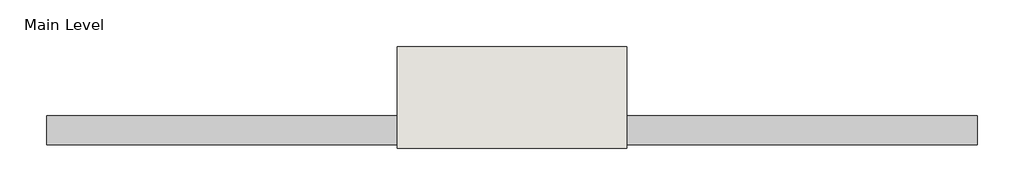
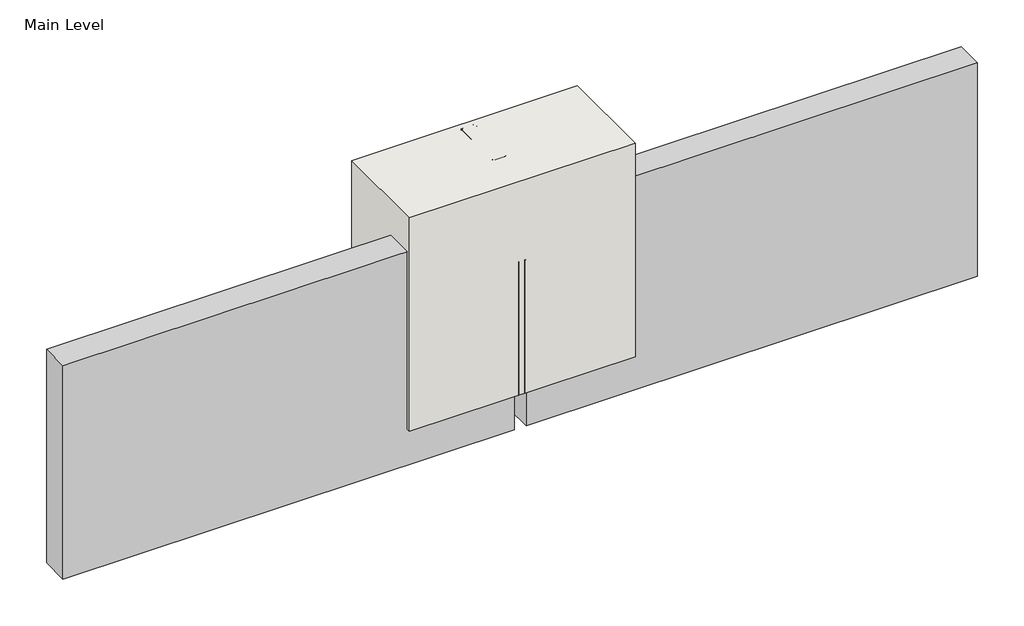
# One storey, incomplete: 8 proxies, 1 wall.
"""IFC4 building model written with IfcOpenShell, lengths in millimetres."""

from ifc_helpers import new_model, si_unit, origin, origin_with_axes, place, context, project, spatial, polyline, outline, extrude, transform, mapped, element, save
from components import generic_models_38adcc71, generic_models_03ec6e0e, proxy_9e09e9f6, proxy_81afb05a, proxy_5fc139d0, finish_coat_valley_finish_coat_valley_771a99fa, proxy_d4c17246

model = new_model("IFC4")

# Units and contexts
model_context = context("Model", 3, world=origin())
ifc_project = project(units=[si_unit("LENGTHUNIT", "METRE", prefix="MILLI")], contexts=[model_context])

# Site, building, storey
site = spatial("IfcSite", under=ifc_project)
building = spatial("IfcBuilding", under=site)
storey = spatial("IfcBuildingStorey", under=building, Name="Main Level", Elevation=0.0)

# Proxies
placement = place(None, origin())
generic_models_shape = generic_models_38adcc71(model_context)
element("IfcBuildingElementProxy", 1, Name="CRAi Generic Model Backer Rod and Sealant : CRAi Generic Model Backer Rod and Sealant", ObjectType="CRAi Generic Model Backer Rod and Sealant : CRAi Generic Model Backer Rod and Sealant", at=placement, inside=storey, context=model_context, shape_type="MappedRepresentation", body=[
    mapped(generic_models_shape, transform((26824.9289273, 570.4816297, 0.0), x_axis=(1.0, 0.0, 0.0), y_axis=(0.0, 1.0, 0.0), z_axis=(0.0, 0.0, 1.0))),
])
generic_models_2_shape = generic_models_03ec6e0e(model_context)
element("IfcBuildingElementProxy", 2, Name="CRAi Generic Model Drywall Screw : CRAi Generic Model Drywall Screw", ObjectType="CRAi Generic Model Drywall Screw : CRAi Generic Model Drywall Screw", at=placement, inside=storey, context=model_context, shape_type="MappedRepresentation", body=[
    mapped(generic_models_2_shape, transform((26834.4539273, 627.6316297, 584.2), x_axis=(1.0, 0.0, 0.0), y_axis=(0.0, 0.0, 1.0), z_axis=(0.0, -1.0, 0.0))),
])
element("IfcBuildingElementProxy", 3, Name="CRAi Generic Model Drywall Screw : CRAi Generic Model Drywall Screw", ObjectType="CRAi Generic Model Drywall Screw : CRAi Generic Model Drywall Screw", at=placement, inside=storey, context=model_context, shape_type="MappedRepresentation", body=[
    mapped(generic_models_2_shape, transform((26815.4039273, 627.6316297, 584.2), x_axis=(1.0, 0.0, 0.0), y_axis=(0.0, 0.0, 1.0), z_axis=(0.0, -1.0, 0.0))),
])
proxy_shape = proxy_9e09e9f6(model_context)
element("IfcBuildingElementProxy", 4, Name="Durabond Generic Model Equalite Insulation Board : 3\"", ObjectType="Durabond Generic Model Equalite Insulation Board : 3\"", at=placement, inside=storey, context=model_context, shape_type="MappedRepresentation", body=[
    mapped(proxy_shape, transform((27450.4039273, 624.4566297, 203.2), x_axis=(-1.0, 0.0, 0.0), y_axis=(0.0, 0.0, -1.0), z_axis=(0.0, -1.0, 0.0))),
])
proxy_2_shape = proxy_81afb05a(model_context)
element("IfcBuildingElementProxy", 5, Name="Durabond Generic Model Equalite Insulation Board : 3\"", ObjectType="Durabond Generic Model Equalite Insulation Board : 3\"", at=placement, inside=storey, context=model_context, shape_type="MappedRepresentation", body=[
    mapped(proxy_2_shape, transform((26199.4539273, 624.4566297, 203.2), x_axis=(1.0, 0.0, 0.0), y_axis=(0.0, 0.0, 1.0), z_axis=(0.0, -1.0, 0.0))),
])
proxy_3_shape = proxy_5fc139d0(model_context)
element("IfcBuildingElementProxy", 6, Name="Durabond Generic Model Barrier Seam Tape Straight : 4\" Barrier Seam Tape", ObjectType="Durabond Generic Model Barrier Seam Tape Straight : 4\" Barrier Seam Tape", at=placement, inside=storey, context=model_context, shape_type="MappedRepresentation", body=[
    mapped(proxy_3_shape, transform((26875.7289273, 627.6316297, 0.0), x_axis=(1.0, 0.0, 0.0), y_axis=(0.0, 1.0, 0.0), z_axis=(0.0, 0.0, 1.0))),
])
finish_coat_valley_finish_coat_valley_shape = finish_coat_valley_finish_coat_valley_771a99fa(model_context)
element("IfcBuildingElementProxy", 7, Name="Finish Coat Valley : Finish Coat Valley", ObjectType="Finish Coat Valley : Finish Coat Valley", at=placement, inside=storey, context=model_context, shape_type="MappedRepresentation", body=[
    mapped(finish_coat_valley_finish_coat_valley_shape, transform((0.0, 0.0, 0.0), x_axis=(1.0, 0.0, 0.0), y_axis=(0.0, 1.0, 0.0), z_axis=(0.0, 0.0, 1.0))),
])
proxy_4_shape = proxy_d4c17246(model_context)
element("IfcBuildingElementProxy", 8, Name="CRAi Generic Model Metal Stud : Metal Framing Stud - 1\" x 3.5\"", ObjectType="CRAi Generic Model Metal Stud : Metal Framing Stud - 1\" x 3.5\"", at=placement, inside=storey, context=model_context, shape_type="MappedRepresentation", body=[
    mapped(proxy_4_shape, transform((26824.9289273, 719.7066297, 0.0), x_axis=(1.0, 0.0, 0.0), y_axis=(0.0, 1.0, 0.0), z_axis=(0.0, 0.0, 1.0))),
])

# Wall
element("IfcWall", 9, ObjectType="189mm (7.5”) EIFS Field Applied on Mtl. Stud Layer - 50mm Grooved Insulation Board Metal Stud Wall(AirStop) 2", at=placement, inside=storey, context=model_context, shape_type="SweptSolid", body=[
    extrude(outline(polyline([(27129.7289273, 538.7316297), (26520.1289273, 538.7316297), (26520.1289273, 808.6066297), (27129.7289273, 808.6066297), (27129.7289273, 538.7316297)])), origin_with_axes(), (0.0, 0.0, 1.0), 609.6),
])

save(model, "model.ifc")
